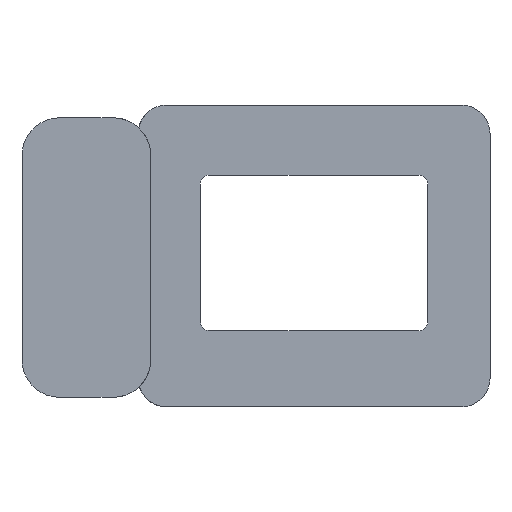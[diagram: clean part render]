
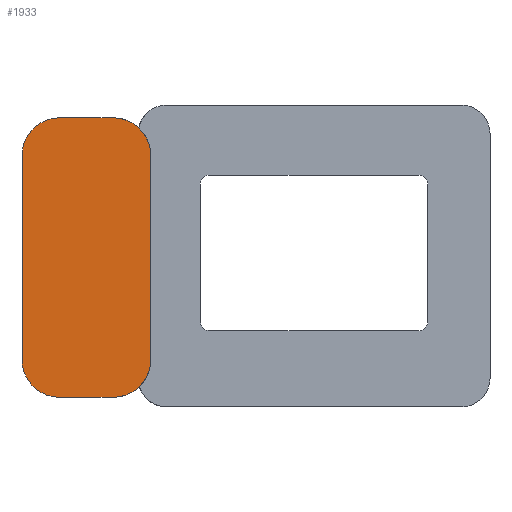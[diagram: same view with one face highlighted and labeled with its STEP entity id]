
A CAD part, top view. The second image highlights one B-rep face of the part: STEP entity #1933.
In plain terms, the highlighted planar face has unit normal (0, 0, 1).
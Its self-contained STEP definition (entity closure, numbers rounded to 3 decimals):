
#248 = CYLINDRICAL_SURFACE('',#249,12.);
#249 = AXIS2_PLACEMENT_3D('',#250,#251,#252);
#250 = CARTESIAN_POINT('',(-54.,-31.,-43.));
#251 = DIRECTION('',(-0.,-0.,1.));
#252 = DIRECTION('',(1.,-0.,0.));
#276 = PLANE('',#277);
#277 = AXIS2_PLACEMENT_3D('',#278,#279,#280);
#278 = CARTESIAN_POINT('',(-42.,-43.,-43.));
#279 = DIRECTION('',(-1.,-0.,0.));
#280 = DIRECTION('',(0.,0.,-1.));
#309 = CYLINDRICAL_SURFACE('',#310,12.);
#310 = AXIS2_PLACEMENT_3D('',#311,#312,#313);
#311 = CARTESIAN_POINT('',(-54.,34.,-43.));
#312 = DIRECTION('',(-0.,-0.,1.));
#313 = DIRECTION('',(1.,-0.,0.));
#1338 = VERTEX_POINT('',#1339);
#1339 = CARTESIAN_POINT('',(-54.,-43.,-40.));
#1353 = PLANE('',#1354);
#1354 = AXIS2_PLACEMENT_3D('',#1355,#1356,#1357);
#1355 = CARTESIAN_POINT('',(-42.,-43.,-43.));
#1356 = DIRECTION('',(-0.,1.,0.));
#1357 = DIRECTION('',(0.,0.,-1.));
#1365 = EDGE_CURVE('',#1366,#1338,#1368,.T.);
#1366 = VERTEX_POINT('',#1367);
#1367 = CARTESIAN_POINT('',(-42.,-31.,-40.));
#1368 = SURFACE_CURVE('',#1369,(#1374,#1381),.PCURVE_S1.);
#1369 = CIRCLE('',#1370,12.);
#1370 = AXIS2_PLACEMENT_3D('',#1371,#1372,#1373);
#1371 = CARTESIAN_POINT('',(-54.,-31.,-40.));
#1372 = DIRECTION('',(0.,0.,-1.));
#1373 = DIRECTION('',(-0.,-1.,-0.));
#1374 = PCURVE('',#248,#1375);
#1375 = DEFINITIONAL_REPRESENTATION('',(#1376),#1380);
#1376 = LINE('',#1377,#1378);
#1377 = CARTESIAN_POINT('',(4.712,3.));
#1378 = VECTOR('',#1379,1.);
#1379 = DIRECTION('',(-1.,0.));
#1380 = ( GEOMETRIC_REPRESENTATION_CONTEXT(2) 
PARAMETRIC_REPRESENTATION_CONTEXT() REPRESENTATION_CONTEXT('2D SPACE',''
  ) );
#1381 = PCURVE('',#1382,#1387);
#1382 = PLANE('',#1383);
#1383 = AXIS2_PLACEMENT_3D('',#1384,#1385,#1386);
#1384 = CARTESIAN_POINT('',(-42.,-43.,-40.));
#1385 = DIRECTION('',(0.,0.,1.));
#1386 = DIRECTION('',(1.,0.,0.));
#1387 = DEFINITIONAL_REPRESENTATION('',(#1388),#1396);
#1388 = ( BOUNDED_CURVE() B_SPLINE_CURVE(2,(#1389,#1390,#1391,#1392,
#1393,#1394,#1395),.UNSPECIFIED.,.T.,.F.) B_SPLINE_CURVE_WITH_KNOTS((1,2
    ,2,2,2,1),(-2.094,0.,2.094,4.189,
6.283,8.378),.UNSPECIFIED.) CURVE() 
GEOMETRIC_REPRESENTATION_ITEM() RATIONAL_B_SPLINE_CURVE((1.,0.5,1.,0.5,
1.,0.5,1.)) REPRESENTATION_ITEM('') );
#1389 = CARTESIAN_POINT('',(-12.,0.));
#1390 = CARTESIAN_POINT('',(-32.785,0.));
#1391 = CARTESIAN_POINT('',(-22.392,18.));
#1392 = CARTESIAN_POINT('',(-12.,36.));
#1393 = CARTESIAN_POINT('',(-1.608,18.));
#1394 = CARTESIAN_POINT('',(8.785,0.));
#1395 = CARTESIAN_POINT('',(-12.,0.));
#1396 = ( GEOMETRIC_REPRESENTATION_CONTEXT(2) 
PARAMETRIC_REPRESENTATION_CONTEXT() REPRESENTATION_CONTEXT('2D SPACE',''
  ) );
#1449 = VERTEX_POINT('',#1450);
#1450 = CARTESIAN_POINT('',(-54.,46.,-40.));
#1464 = PLANE('',#1465);
#1465 = AXIS2_PLACEMENT_3D('',#1466,#1467,#1468);
#1466 = CARTESIAN_POINT('',(-42.,46.,-43.));
#1467 = DIRECTION('',(-0.,1.,0.));
#1468 = DIRECTION('',(0.,0.,-1.));
#1476 = EDGE_CURVE('',#1477,#1449,#1479,.T.);
#1477 = VERTEX_POINT('',#1478);
#1478 = CARTESIAN_POINT('',(-42.,34.,-40.));
#1479 = SURFACE_CURVE('',#1480,(#1485,#1492),.PCURVE_S1.);
#1480 = CIRCLE('',#1481,12.);
#1481 = AXIS2_PLACEMENT_3D('',#1482,#1483,#1484);
#1482 = CARTESIAN_POINT('',(-54.,34.,-40.));
#1483 = DIRECTION('',(0.,-0.,1.));
#1484 = DIRECTION('',(-0.,-1.,-0.));
#1485 = PCURVE('',#309,#1486);
#1486 = DEFINITIONAL_REPRESENTATION('',(#1487),#1491);
#1487 = LINE('',#1488,#1489);
#1488 = CARTESIAN_POINT('',(-1.571,3.));
#1489 = VECTOR('',#1490,1.);
#1490 = DIRECTION('',(1.,0.));
#1491 = ( GEOMETRIC_REPRESENTATION_CONTEXT(2) 
PARAMETRIC_REPRESENTATION_CONTEXT() REPRESENTATION_CONTEXT('2D SPACE',''
  ) );
#1492 = PCURVE('',#1382,#1493);
#1493 = DEFINITIONAL_REPRESENTATION('',(#1494),#1498);
#1494 = CIRCLE('',#1495,12.);
#1495 = AXIS2_PLACEMENT_2D('',#1496,#1497);
#1496 = CARTESIAN_POINT('',(-12.,77.));
#1497 = DIRECTION('',(-0.,-1.));
#1498 = ( GEOMETRIC_REPRESENTATION_CONTEXT(2) 
PARAMETRIC_REPRESENTATION_CONTEXT() REPRESENTATION_CONTEXT('2D SPACE',''
  ) );
#1525 = EDGE_CURVE('',#1366,#1477,#1526,.T.);
#1526 = SURFACE_CURVE('',#1527,(#1531,#1538),.PCURVE_S1.);
#1527 = LINE('',#1528,#1529);
#1528 = CARTESIAN_POINT('',(-42.,-43.,-40.));
#1529 = VECTOR('',#1530,1.);
#1530 = DIRECTION('',(-0.,1.,0.));
#1531 = PCURVE('',#276,#1532);
#1532 = DEFINITIONAL_REPRESENTATION('',(#1533),#1537);
#1533 = LINE('',#1534,#1535);
#1534 = CARTESIAN_POINT('',(-3.,-0.));
#1535 = VECTOR('',#1536,1.);
#1536 = DIRECTION('',(-0.,-1.));
#1537 = ( GEOMETRIC_REPRESENTATION_CONTEXT(2) 
PARAMETRIC_REPRESENTATION_CONTEXT() REPRESENTATION_CONTEXT('2D SPACE',''
  ) );
#1538 = PCURVE('',#1382,#1539);
#1539 = DEFINITIONAL_REPRESENTATION('',(#1540),#1544);
#1540 = LINE('',#1541,#1542);
#1541 = CARTESIAN_POINT('',(0.,-0.));
#1542 = VECTOR('',#1543,1.);
#1543 = DIRECTION('',(-0.,1.));
#1544 = ( GEOMETRIC_REPRESENTATION_CONTEXT(2) 
PARAMETRIC_REPRESENTATION_CONTEXT() REPRESENTATION_CONTEXT('2D SPACE',''
  ) );
#1837 = CYLINDRICAL_SURFACE('',#1838,12.);
#1838 = AXIS2_PLACEMENT_3D('',#1839,#1840,#1841);
#1839 = CARTESIAN_POINT('',(-71.,-31.,-43.));
#1840 = DIRECTION('',(-0.,-0.,1.));
#1841 = DIRECTION('',(-1.,-0.,-0.));
#1865 = PLANE('',#1866);
#1866 = AXIS2_PLACEMENT_3D('',#1867,#1868,#1869);
#1867 = CARTESIAN_POINT('',(-83.,-43.,-43.));
#1868 = DIRECTION('',(-1.,-0.,0.));
#1869 = DIRECTION('',(0.,0.,-1.));
#1898 = CYLINDRICAL_SURFACE('',#1899,12.);
#1899 = AXIS2_PLACEMENT_3D('',#1900,#1901,#1902);
#1900 = CARTESIAN_POINT('',(-71.,34.,-43.));
#1901 = DIRECTION('',(-0.,-0.,1.));
#1902 = DIRECTION('',(-1.,-0.,-0.));
#1933 = ADVANCED_FACE('',(#1934),#1382,.T.);
#1934 = FACE_BOUND('',#1935,.F.);
#1935 = EDGE_LOOP('',(#1936,#1937,#1938,#1961,#1985,#2008,#2036,#2057));
#1936 = ORIENTED_EDGE('',*,*,#1525,.F.);
#1937 = ORIENTED_EDGE('',*,*,#1365,.T.);
#1938 = ORIENTED_EDGE('',*,*,#1939,.T.);
#1939 = EDGE_CURVE('',#1338,#1940,#1942,.T.);
#1940 = VERTEX_POINT('',#1941);
#1941 = CARTESIAN_POINT('',(-71.,-43.,-40.));
#1942 = SURFACE_CURVE('',#1943,(#1947,#1954),.PCURVE_S1.);
#1943 = LINE('',#1944,#1945);
#1944 = CARTESIAN_POINT('',(-42.,-43.,-40.));
#1945 = VECTOR('',#1946,1.);
#1946 = DIRECTION('',(-1.,-0.,0.));
#1947 = PCURVE('',#1382,#1948);
#1948 = DEFINITIONAL_REPRESENTATION('',(#1949),#1953);
#1949 = LINE('',#1950,#1951);
#1950 = CARTESIAN_POINT('',(0.,-0.));
#1951 = VECTOR('',#1952,1.);
#1952 = DIRECTION('',(-1.,0.));
#1953 = ( GEOMETRIC_REPRESENTATION_CONTEXT(2) 
PARAMETRIC_REPRESENTATION_CONTEXT() REPRESENTATION_CONTEXT('2D SPACE',''
  ) );
#1954 = PCURVE('',#1353,#1955);
#1955 = DEFINITIONAL_REPRESENTATION('',(#1956),#1960);
#1956 = LINE('',#1957,#1958);
#1957 = CARTESIAN_POINT('',(-3.,-0.));
#1958 = VECTOR('',#1959,1.);
#1959 = DIRECTION('',(-0.,1.));
#1960 = ( GEOMETRIC_REPRESENTATION_CONTEXT(2) 
PARAMETRIC_REPRESENTATION_CONTEXT() REPRESENTATION_CONTEXT('2D SPACE',''
  ) );
#1961 = ORIENTED_EDGE('',*,*,#1962,.F.);
#1962 = EDGE_CURVE('',#1963,#1940,#1965,.T.);
#1963 = VERTEX_POINT('',#1964);
#1964 = CARTESIAN_POINT('',(-83.,-31.,-40.));
#1965 = SURFACE_CURVE('',#1966,(#1971,#1978),.PCURVE_S1.);
#1966 = CIRCLE('',#1967,12.);
#1967 = AXIS2_PLACEMENT_3D('',#1968,#1969,#1970);
#1968 = CARTESIAN_POINT('',(-71.,-31.,-40.));
#1969 = DIRECTION('',(0.,-0.,1.));
#1970 = DIRECTION('',(-0.,-1.,-0.));
#1971 = PCURVE('',#1382,#1972);
#1972 = DEFINITIONAL_REPRESENTATION('',(#1973),#1977);
#1973 = CIRCLE('',#1974,12.);
#1974 = AXIS2_PLACEMENT_2D('',#1975,#1976);
#1975 = CARTESIAN_POINT('',(-29.,12.));
#1976 = DIRECTION('',(-0.,-1.));
#1977 = ( GEOMETRIC_REPRESENTATION_CONTEXT(2) 
PARAMETRIC_REPRESENTATION_CONTEXT() REPRESENTATION_CONTEXT('2D SPACE',''
  ) );
#1978 = PCURVE('',#1837,#1979);
#1979 = DEFINITIONAL_REPRESENTATION('',(#1980),#1984);
#1980 = LINE('',#1981,#1982);
#1981 = CARTESIAN_POINT('',(-4.712,3.));
#1982 = VECTOR('',#1983,1.);
#1983 = DIRECTION('',(1.,0.));
#1984 = ( GEOMETRIC_REPRESENTATION_CONTEXT(2) 
PARAMETRIC_REPRESENTATION_CONTEXT() REPRESENTATION_CONTEXT('2D SPACE',''
  ) );
#1985 = ORIENTED_EDGE('',*,*,#1986,.T.);
#1986 = EDGE_CURVE('',#1963,#1987,#1989,.T.);
#1987 = VERTEX_POINT('',#1988);
#1988 = CARTESIAN_POINT('',(-83.,34.,-40.));
#1989 = SURFACE_CURVE('',#1990,(#1994,#2001),.PCURVE_S1.);
#1990 = LINE('',#1991,#1992);
#1991 = CARTESIAN_POINT('',(-83.,-43.,-40.));
#1992 = VECTOR('',#1993,1.);
#1993 = DIRECTION('',(-0.,1.,0.));
#1994 = PCURVE('',#1382,#1995);
#1995 = DEFINITIONAL_REPRESENTATION('',(#1996),#2000);
#1996 = LINE('',#1997,#1998);
#1997 = CARTESIAN_POINT('',(-41.,0.));
#1998 = VECTOR('',#1999,1.);
#1999 = DIRECTION('',(-0.,1.));
#2000 = ( GEOMETRIC_REPRESENTATION_CONTEXT(2) 
PARAMETRIC_REPRESENTATION_CONTEXT() REPRESENTATION_CONTEXT('2D SPACE',''
  ) );
#2001 = PCURVE('',#1865,#2002);
#2002 = DEFINITIONAL_REPRESENTATION('',(#2003),#2007);
#2003 = LINE('',#2004,#2005);
#2004 = CARTESIAN_POINT('',(-3.,-0.));
#2005 = VECTOR('',#2006,1.);
#2006 = DIRECTION('',(-0.,-1.));
#2007 = ( GEOMETRIC_REPRESENTATION_CONTEXT(2) 
PARAMETRIC_REPRESENTATION_CONTEXT() REPRESENTATION_CONTEXT('2D SPACE',''
  ) );
#2008 = ORIENTED_EDGE('',*,*,#2009,.T.);
#2009 = EDGE_CURVE('',#1987,#2010,#2012,.T.);
#2010 = VERTEX_POINT('',#2011);
#2011 = CARTESIAN_POINT('',(-71.,46.,-40.));
#2012 = SURFACE_CURVE('',#2013,(#2018,#2029),.PCURVE_S1.);
#2013 = CIRCLE('',#2014,12.);
#2014 = AXIS2_PLACEMENT_3D('',#2015,#2016,#2017);
#2015 = CARTESIAN_POINT('',(-71.,34.,-40.));
#2016 = DIRECTION('',(0.,0.,-1.));
#2017 = DIRECTION('',(-0.,-1.,-0.));
#2018 = PCURVE('',#1382,#2019);
#2019 = DEFINITIONAL_REPRESENTATION('',(#2020),#2028);
#2020 = ( BOUNDED_CURVE() B_SPLINE_CURVE(2,(#2021,#2022,#2023,#2024,
#2025,#2026,#2027),.UNSPECIFIED.,.T.,.F.) B_SPLINE_CURVE_WITH_KNOTS((1,2
    ,2,2,2,1),(-2.094,0.,2.094,4.189,
6.283,8.378),.UNSPECIFIED.) CURVE() 
GEOMETRIC_REPRESENTATION_ITEM() RATIONAL_B_SPLINE_CURVE((1.,0.5,1.,0.5,
1.,0.5,1.)) REPRESENTATION_ITEM('') );
#2021 = CARTESIAN_POINT('',(-29.,65.));
#2022 = CARTESIAN_POINT('',(-49.785,65.));
#2023 = CARTESIAN_POINT('',(-39.392,83.));
#2024 = CARTESIAN_POINT('',(-29.,101.));
#2025 = CARTESIAN_POINT('',(-18.608,83.));
#2026 = CARTESIAN_POINT('',(-8.215,65.));
#2027 = CARTESIAN_POINT('',(-29.,65.));
#2028 = ( GEOMETRIC_REPRESENTATION_CONTEXT(2) 
PARAMETRIC_REPRESENTATION_CONTEXT() REPRESENTATION_CONTEXT('2D SPACE',''
  ) );
#2029 = PCURVE('',#1898,#2030);
#2030 = DEFINITIONAL_REPRESENTATION('',(#2031),#2035);
#2031 = LINE('',#2032,#2033);
#2032 = CARTESIAN_POINT('',(1.571,3.));
#2033 = VECTOR('',#2034,1.);
#2034 = DIRECTION('',(-1.,0.));
#2035 = ( GEOMETRIC_REPRESENTATION_CONTEXT(2) 
PARAMETRIC_REPRESENTATION_CONTEXT() REPRESENTATION_CONTEXT('2D SPACE',''
  ) );
#2036 = ORIENTED_EDGE('',*,*,#2037,.F.);
#2037 = EDGE_CURVE('',#1449,#2010,#2038,.T.);
#2038 = SURFACE_CURVE('',#2039,(#2043,#2050),.PCURVE_S1.);
#2039 = LINE('',#2040,#2041);
#2040 = CARTESIAN_POINT('',(-42.,46.,-40.));
#2041 = VECTOR('',#2042,1.);
#2042 = DIRECTION('',(-1.,-0.,0.));
#2043 = PCURVE('',#1382,#2044);
#2044 = DEFINITIONAL_REPRESENTATION('',(#2045),#2049);
#2045 = LINE('',#2046,#2047);
#2046 = CARTESIAN_POINT('',(0.,89.));
#2047 = VECTOR('',#2048,1.);
#2048 = DIRECTION('',(-1.,0.));
#2049 = ( GEOMETRIC_REPRESENTATION_CONTEXT(2) 
PARAMETRIC_REPRESENTATION_CONTEXT() REPRESENTATION_CONTEXT('2D SPACE',''
  ) );
#2050 = PCURVE('',#1464,#2051);
#2051 = DEFINITIONAL_REPRESENTATION('',(#2052),#2056);
#2052 = LINE('',#2053,#2054);
#2053 = CARTESIAN_POINT('',(-3.,-0.));
#2054 = VECTOR('',#2055,1.);
#2055 = DIRECTION('',(-0.,1.));
#2056 = ( GEOMETRIC_REPRESENTATION_CONTEXT(2) 
PARAMETRIC_REPRESENTATION_CONTEXT() REPRESENTATION_CONTEXT('2D SPACE',''
  ) );
#2057 = ORIENTED_EDGE('',*,*,#1476,.F.);
